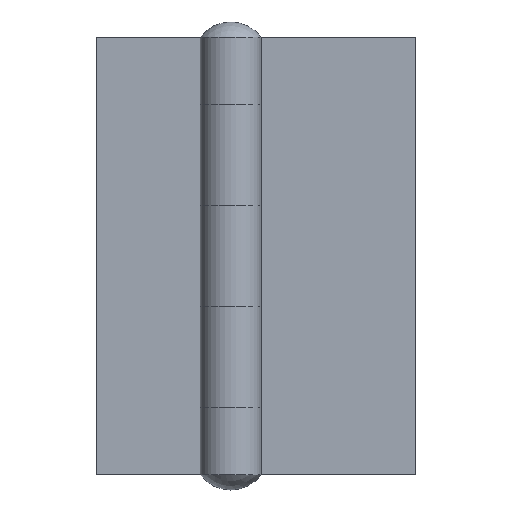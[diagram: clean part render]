
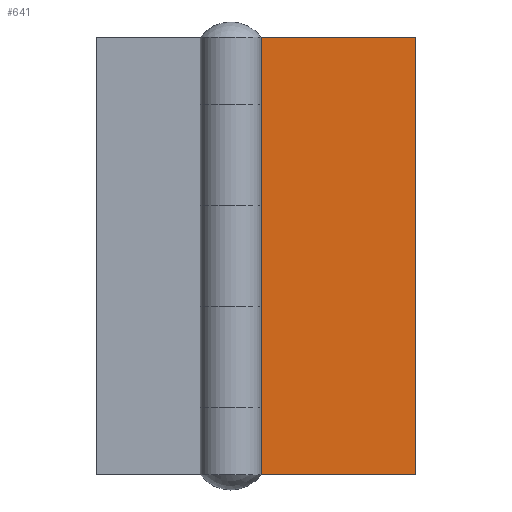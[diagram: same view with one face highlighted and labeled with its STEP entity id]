
A CAD part, front view. The second image highlights one B-rep face of the part: STEP entity #641.
In plain terms, the highlighted planar face has unit normal (0, -1, 0).
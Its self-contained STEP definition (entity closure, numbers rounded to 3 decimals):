
#140=CARTESIAN_POINT('',(0.,5.0,20.0));
#141=VERTEX_POINT('',#140);
#149=CARTESIAN_POINT('',(0.,5.0,50.0));
#150=VERTEX_POINT('',#149);
#151=CARTESIAN_POINT('',(0.,5.0,20.0));
#152=DIRECTION('',(0.0,0.0,1.0));
#153=VECTOR('',#152,30.0);
#154=LINE('',#151,#153);
#155=EDGE_CURVE('',#141,#150,#154,.T.);
#392=CARTESIAN_POINT('',(0.,5.0,80.0));
#393=VERTEX_POINT('',#392);
#401=CARTESIAN_POINT('',(0.,5.0,110.0));
#402=VERTEX_POINT('',#401);
#403=CARTESIAN_POINT('',(0.,5.0,80.0));
#404=DIRECTION('',(0.0,0.0,1.0));
#405=VECTOR('',#404,30.0);
#406=LINE('',#403,#405);
#407=EDGE_CURVE('',#393,#402,#406,.T.);
#468=CARTESIAN_POINT('',(9.0,5.0,130.0));
#469=VERTEX_POINT('',#468);
#484=CARTESIAN_POINT('',(9.0,5.0,110.0));
#485=VERTEX_POINT('',#484);
#492=CARTESIAN_POINT('',(9.0,5.0,130.0));
#493=DIRECTION('',(0.0,0.0,-1.0));
#494=VECTOR('',#493,20.0);
#495=LINE('',#492,#494);
#496=EDGE_CURVE('',#469,#485,#495,.T.);
#522=CARTESIAN_POINT('',(9.0,5.0,110.0));
#523=DIRECTION('',(-1.0,0.0,0.0));
#524=VECTOR('',#523,9.);
#525=LINE('',#522,#524);
#526=EDGE_CURVE('',#485,#402,#525,.T.);
#552=CARTESIAN_POINT('',(55.0,5.0,130.0));
#553=VERTEX_POINT('',#552);
#554=CARTESIAN_POINT('',(9.0,5.0,130.0));
#555=DIRECTION('',(1.0,0.0,0.0));
#556=VECTOR('',#555,46.0);
#557=LINE('',#554,#556);
#558=EDGE_CURVE('',#469,#553,#557,.T.);
#577=CARTESIAN_POINT('',(27.5,5.0,65.0));
#578=DIRECTION('',(0.0,1.0,0.0));
#579=DIRECTION('',(0.0,0.0,1.0));
#580=AXIS2_PLACEMENT_3D('',#577,#578,#579);
#581=PLANE('',#580);
#582=ORIENTED_EDGE('',*,*,#496,.T.);
#583=ORIENTED_EDGE('',*,*,#526,.T.);
#584=ORIENTED_EDGE('',*,*,#407,.F.);
#585=CARTESIAN_POINT('',(9.0,5.0,80.0));
#586=VERTEX_POINT('',#585);
#587=CARTESIAN_POINT('',(0.,5.0,80.0));
#588=DIRECTION('',(1.0,0.0,0.0));
#589=VECTOR('',#588,9.);
#590=LINE('',#587,#589);
#591=EDGE_CURVE('',#393,#586,#590,.T.);
#592=ORIENTED_EDGE('',*,*,#591,.T.);
#593=CARTESIAN_POINT('',(9.0,5.0,50.0));
#594=VERTEX_POINT('',#593);
#595=CARTESIAN_POINT('',(9.0,5.0,80.0));
#596=DIRECTION('',(0.0,0.0,-1.0));
#597=VECTOR('',#596,30.0);
#598=LINE('',#595,#597);
#599=EDGE_CURVE('',#586,#594,#598,.T.);
#600=ORIENTED_EDGE('',*,*,#599,.T.);
#601=CARTESIAN_POINT('',(9.0,5.0,50.0));
#602=DIRECTION('',(-1.0,0.0,0.0));
#603=VECTOR('',#602,9.);
#604=LINE('',#601,#603);
#605=EDGE_CURVE('',#594,#150,#604,.T.);
#606=ORIENTED_EDGE('',*,*,#605,.T.);
#607=ORIENTED_EDGE('',*,*,#155,.F.);
#608=CARTESIAN_POINT('',(9.0,5.0,20.0));
#609=VERTEX_POINT('',#608);
#610=CARTESIAN_POINT('',(0.,5.0,20.0));
#611=DIRECTION('',(1.0,0.0,0.0));
#612=VECTOR('',#611,9.);
#613=LINE('',#610,#612);
#614=EDGE_CURVE('',#141,#609,#613,.T.);
#615=ORIENTED_EDGE('',*,*,#614,.T.);
#616=CARTESIAN_POINT('',(9.0,5.0,0.0));
#617=VERTEX_POINT('',#616);
#618=CARTESIAN_POINT('',(9.0,5.0,20.0));
#619=DIRECTION('',(0.0,0.0,-1.0));
#620=VECTOR('',#619,20.0);
#621=LINE('',#618,#620);
#622=EDGE_CURVE('',#609,#617,#621,.T.);
#623=ORIENTED_EDGE('',*,*,#622,.T.);
#624=CARTESIAN_POINT('',(55.0,5.0,0.0));
#625=VERTEX_POINT('',#624);
#626=CARTESIAN_POINT('',(55.0,5.0,0.0));
#627=DIRECTION('',(-1.0,0.0,0.0));
#628=VECTOR('',#627,46.0);
#629=LINE('',#626,#628);
#630=EDGE_CURVE('',#625,#617,#629,.T.);
#631=ORIENTED_EDGE('',*,*,#630,.F.);
#632=CARTESIAN_POINT('',(55.0,5.0,130.0));
#633=DIRECTION('',(0.0,0.0,-1.0));
#634=VECTOR('',#633,130.0);
#635=LINE('',#632,#634);
#636=EDGE_CURVE('',#553,#625,#635,.T.);
#637=ORIENTED_EDGE('',*,*,#636,.F.);
#638=ORIENTED_EDGE('',*,*,#558,.F.);
#639=EDGE_LOOP('',(#582,#583,#584,#592,#600,#606,#607,#615,#623,#631,#637,#638));
#640=FACE_OUTER_BOUND('',#639,.T.);
#641=ADVANCED_FACE('',(#640),#581,.F.);
